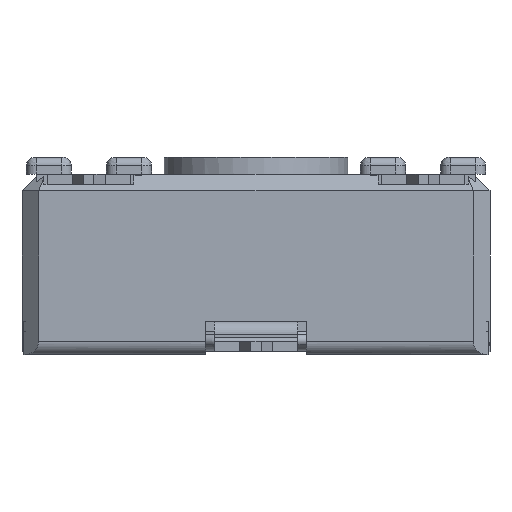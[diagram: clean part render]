
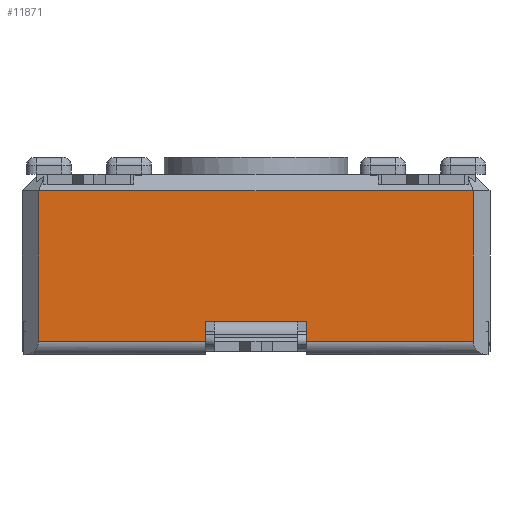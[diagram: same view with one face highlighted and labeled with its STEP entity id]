
A CAD part, front view. The second image highlights one B-rep face of the part: STEP entity #11871.
In plain terms, the highlighted planar face has unit normal (0, -1, 0).
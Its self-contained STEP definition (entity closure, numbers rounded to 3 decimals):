
#1305=FACE_OUTER_BOUND('',#1904,.T.);
#1904=EDGE_LOOP('',(#10559,#10560,#10561,#10562,#10563,#10564,#10565,#10566,
#10567,#10568));
#2142=LINE('',#16818,#3385);
#2302=LINE('',#17195,#3545);
#2805=LINE('',#18606,#4048);
#2813=LINE('',#18623,#4056);
#2829=LINE('',#18663,#4072);
#2830=LINE('',#18668,#4073);
#3100=LINE('',#19442,#4343);
#3110=LINE('',#19460,#4353);
#3127=LINE('',#19504,#4370);
#3131=LINE('',#19510,#4374);
#3385=VECTOR('',#13493,10.);
#3545=VECTOR('',#13813,10.);
#4048=VECTOR('',#14986,10.);
#4056=VECTOR('',#14998,10.);
#4072=VECTOR('',#15034,10.);
#4073=VECTOR('',#15041,10.);
#4343=VECTOR('',#15755,10.);
#4353=VECTOR('',#15775,10.);
#4370=VECTOR('',#15816,10.);
#4374=VECTOR('',#15824,10.);
#5039=VERTEX_POINT('',#16816);
#5040=VERTEX_POINT('',#16817);
#5177=VERTEX_POINT('',#17194);
#5605=VERTEX_POINT('',#18603);
#5606=VERTEX_POINT('',#18605);
#5613=VERTEX_POINT('',#18621);
#5627=VERTEX_POINT('',#18662);
#5628=VERTEX_POINT('',#18666);
#5878=VERTEX_POINT('',#19441);
#5886=VERTEX_POINT('',#19502);
#6219=EDGE_CURVE('',#5039,#5040,#2142,.T.);
#6413=EDGE_CURVE('',#5177,#5039,#2302,.T.);
#7057=EDGE_CURVE('',#5605,#5606,#2805,.T.);
#7066=EDGE_CURVE('',#5605,#5613,#2813,.T.);
#7086=EDGE_CURVE('',#5177,#5627,#2829,.T.);
#7089=EDGE_CURVE('',#5627,#5628,#2830,.T.);
#7466=EDGE_CURVE('',#5878,#5606,#3100,.T.);
#7476=EDGE_CURVE('',#5040,#5878,#3110,.T.);
#7494=EDGE_CURVE('',#5886,#5613,#3127,.T.);
#7498=EDGE_CURVE('',#5628,#5886,#3131,.T.);
#10559=ORIENTED_EDGE('',*,*,#7057,.F.);
#10560=ORIENTED_EDGE('',*,*,#7066,.T.);
#10561=ORIENTED_EDGE('',*,*,#7494,.F.);
#10562=ORIENTED_EDGE('',*,*,#7498,.F.);
#10563=ORIENTED_EDGE('',*,*,#7089,.F.);
#10564=ORIENTED_EDGE('',*,*,#7086,.F.);
#10565=ORIENTED_EDGE('',*,*,#6413,.T.);
#10566=ORIENTED_EDGE('',*,*,#6219,.T.);
#10567=ORIENTED_EDGE('',*,*,#7476,.T.);
#10568=ORIENTED_EDGE('',*,*,#7466,.T.);
#11312=PLANE('',#12834);
#11871=ADVANCED_FACE('',(#1305),#11312,.T.);
#12834=AXIS2_PLACEMENT_3D('',#19509,#15822,#15823);
#13493=DIRECTION('',(1.,0.,0.));
#13813=DIRECTION('',(1.,0.,0.));
#14986=DIRECTION('',(-1.,0.,0.));
#14998=DIRECTION('',(0.,0.,1.));
#15034=DIRECTION('',(0.,0.,-1.));
#15041=DIRECTION('',(-1.,0.,0.));
#15755=DIRECTION('',(0.,0.,-1.));
#15775=DIRECTION('',(1.,0.,0.));
#15816=DIRECTION('',(1.,0.,0.));
#15822=DIRECTION('center_axis',(0.,-1.,0.));
#15823=DIRECTION('ref_axis',(1.,0.,0.));
#15824=DIRECTION('',(0.,0.,1.));
#16816=CARTESIAN_POINT('',(-11.405,0.3,0.));
#16817=CARTESIAN_POINT('',(-8.905,0.3,0.));
#16818=CARTESIAN_POINT('',(-16.655,0.3,0.));
#17194=CARTESIAN_POINT('',(-11.655,0.3,0.));
#17195=CARTESIAN_POINT('',(-16.655,0.3,0.));
#18603=CARTESIAN_POINT('',(-3.655,0.3,-0.6));
#18605=CARTESIAN_POINT('',(-8.655,0.3,-0.6));
#18606=CARTESIAN_POINT('',(-11.325,0.3,-0.6));
#18621=CARTESIAN_POINT('',(-3.655,0.3,3.9));
#18623=CARTESIAN_POINT('',(-3.655,0.3,0.));
#18662=CARTESIAN_POINT('',(-11.655,0.3,-0.6));
#18663=CARTESIAN_POINT('',(-11.655,0.3,-0.3));
#18666=CARTESIAN_POINT('',(-16.655,0.3,-0.6));
#18668=CARTESIAN_POINT('',(-15.484,0.3,-0.6));
#19441=CARTESIAN_POINT('',(-8.655,0.3,0.));
#19442=CARTESIAN_POINT('',(-8.655,0.3,0.));
#19460=CARTESIAN_POINT('',(-16.655,0.3,0.));
#19502=CARTESIAN_POINT('',(-16.655,0.3,3.9));
#19504=CARTESIAN_POINT('',(-13.405,0.3,3.9));
#19509=CARTESIAN_POINT('Origin',(-16.655,0.3,0.));
#19510=CARTESIAN_POINT('',(-16.655,0.3,0.));
